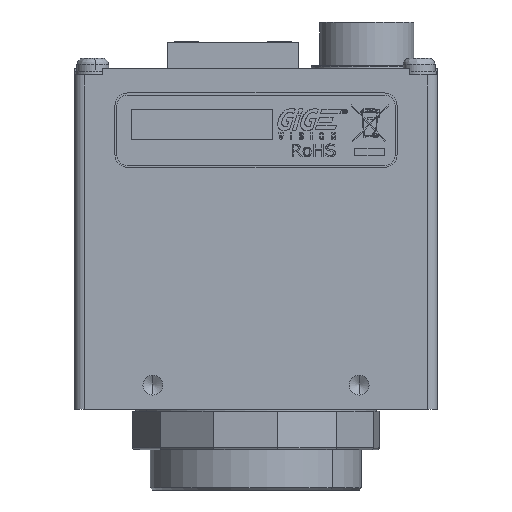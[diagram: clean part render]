
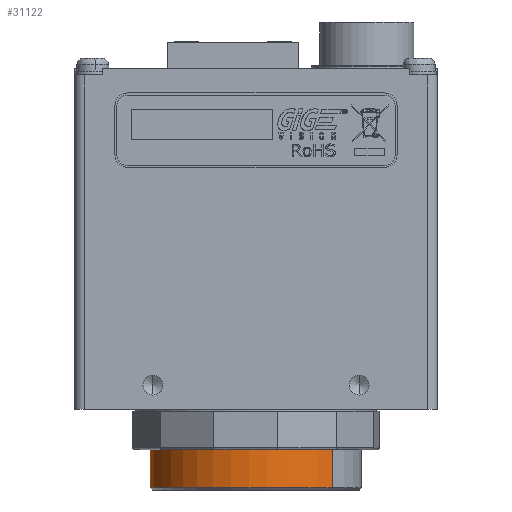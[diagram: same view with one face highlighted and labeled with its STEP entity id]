
A CAD part, front view. The second image highlights one B-rep face of the part: STEP entity #31122.
In plain terms, the highlighted cylindrical face has radius 13.335 mm (diameter 26.67 mm), a partial arc.
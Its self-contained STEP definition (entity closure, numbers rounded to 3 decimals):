
#5660 = CARTESIAN_POINT ( 'NONE',  ( -13.335, 0., 7.214 ) ) ;
#12590 = DIRECTION ( 'NONE',  ( 0., 0., 1. ) ) ;
#12808 = CARTESIAN_POINT ( 'NONE',  ( -13.335, 0., 7.214 ) ) ;
#14416 = AXIS2_PLACEMENT_3D ( 'NONE', #53865, #149768, #67980 ) ;
#22140 = AXIS2_PLACEMENT_3D ( 'NONE', #102153, #101562, #99943 ) ;
#28924 = CARTESIAN_POINT ( 'NONE',  ( 13.335, 0., 7.214 ) ) ;
#31122 = ADVANCED_FACE ( 'NONE', ( #175446 ), #128107, .T. ) ;
#33267 = CARTESIAN_POINT ( 'NONE',  ( 13.335, 0., 13.386 ) ) ;
#53865 = CARTESIAN_POINT ( 'NONE',  ( 0., 0., 13.386 ) ) ;
#54148 = AXIS2_PLACEMENT_3D ( 'NONE', #78138, #172300, #92013 ) ;
#67873 = VECTOR ( 'NONE', #126014, 1000. ) ;
#67918 = VERTEX_POINT ( 'NONE', #33267 ) ;
#67980 = DIRECTION ( 'NONE',  ( 1., 0., 0. ) ) ;
#70620 = EDGE_CURVE ( 'NONE', #149999, #172994, #100749, .T. ) ;
#72311 = LINE ( 'NONE', #28924, #67873 ) ;
#78138 = CARTESIAN_POINT ( 'NONE',  ( 0., 0., 7.214 ) ) ;
#88117 = ORIENTED_EDGE ( 'NONE', *, *, #142241, .T. ) ;
#92013 = DIRECTION ( 'NONE',  ( 1., 0., 0. ) ) ;
#94333 = VERTEX_POINT ( 'NONE', #147630 ) ;
#99943 = DIRECTION ( 'NONE',  ( 1., 0., 0. ) ) ;
#100749 = LINE ( 'NONE', #12808, #132602 ) ;
#101562 = DIRECTION ( 'NONE',  ( 0., 0., 1. ) ) ;
#102153 = CARTESIAN_POINT ( 'NONE',  ( 0., 0., 7.214 ) ) ;
#106236 = EDGE_LOOP ( 'NONE', ( #111467, #117809, #88117, #157556 ) ) ;
#111467 = ORIENTED_EDGE ( 'NONE', *, *, #70620, .F. ) ;
#117809 = ORIENTED_EDGE ( 'NONE', *, *, #140556, .T. ) ;
#126014 = DIRECTION ( 'NONE',  ( 0., 0., 1. ) ) ;
#128107 = CYLINDRICAL_SURFACE ( 'NONE', #22140, 13.335 ) ;
#131498 = EDGE_CURVE ( 'NONE', #67918, #172994, #163323, .T. ) ;
#132602 = VECTOR ( 'NONE', #12590, 1000. ) ;
#134825 = CIRCLE ( 'NONE', #54148, 13.335 ) ;
#140556 = EDGE_CURVE ( 'NONE', #149999, #94333, #134825, .T. ) ;
#142241 = EDGE_CURVE ( 'NONE', #94333, #67918, #72311, .T. ) ;
#147630 = CARTESIAN_POINT ( 'NONE',  ( 13.335, 0., 7.214 ) ) ;
#149768 = DIRECTION ( 'NONE',  ( 0., 0., -1. ) ) ;
#149999 = VERTEX_POINT ( 'NONE', #5660 ) ;
#157556 = ORIENTED_EDGE ( 'NONE', *, *, #131498, .T. ) ;
#163323 = CIRCLE ( 'NONE', #14416, 13.335 ) ;
#172300 = DIRECTION ( 'NONE',  ( 0., 0., 1. ) ) ;
#172994 = VERTEX_POINT ( 'NONE', #173730 ) ;
#173730 = CARTESIAN_POINT ( 'NONE',  ( -13.335, 0., 13.386 ) ) ;
#175446 = FACE_OUTER_BOUND ( 'NONE', #106236, .T. ) ;
